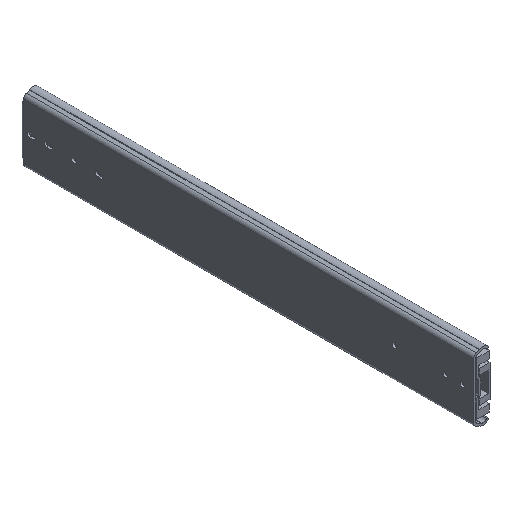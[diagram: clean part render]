
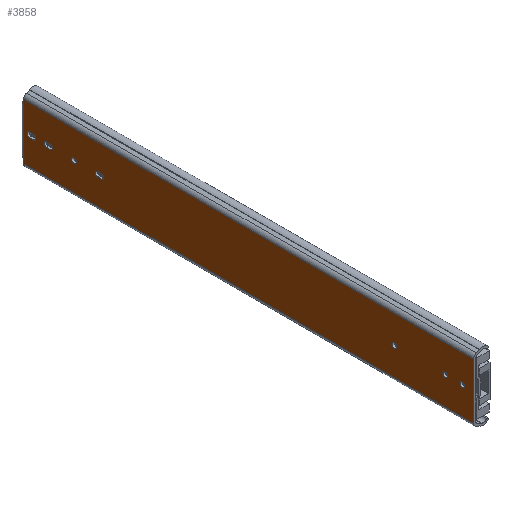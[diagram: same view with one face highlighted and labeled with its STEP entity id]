
A CAD part, isometric view. The second image highlights one B-rep face of the part: STEP entity #3858.
In plain terms, the highlighted planar face has unit normal (-1, 0, 0).
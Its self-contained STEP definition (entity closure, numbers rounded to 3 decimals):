
#343=LINE('',#6565,#726);
#350=LINE('',#6594,#733);
#351=LINE('',#6599,#734);
#366=LINE('',#6646,#749);
#373=LINE('',#6671,#756);
#383=LINE('',#6700,#766);
#386=LINE('',#6722,#769);
#390=LINE('',#6734,#773);
#394=LINE('',#6750,#777);
#401=LINE('',#6769,#784);
#404=LINE('',#6778,#787);
#410=LINE('',#6809,#793);
#416=LINE('',#6825,#799);
#417=LINE('',#6827,#800);
#726=VECTOR('',#5431,1000.);
#733=VECTOR('',#5460,1000.);
#734=VECTOR('',#5465,1000.);
#749=VECTOR('',#5510,1000.);
#756=VECTOR('',#5535,1000.);
#766=VECTOR('',#5567,1000.);
#769=VECTOR('',#5590,1000.);
#773=VECTOR('',#5602,1000.);
#777=VECTOR('',#5620,1000.);
#784=VECTOR('',#5635,1000.);
#787=VECTOR('',#5646,1000.);
#793=VECTOR('',#5672,1000.);
#799=VECTOR('',#5692,1000.);
#800=VECTOR('',#5695,1000.);
#907=PLANE('',#4605);
#1961=ORIENTED_EDGE('',*,*,#2562,.F.);
#1962=ORIENTED_EDGE('',*,*,#2521,.T.);
#1963=ORIENTED_EDGE('',*,*,#2525,.F.);
#1964=ORIENTED_EDGE('',*,*,#2560,.T.);
#1965=ORIENTED_EDGE('',*,*,#2539,.T.);
#1966=ORIENTED_EDGE('',*,*,#2537,.T.);
#1967=ORIENTED_EDGE('',*,*,#2534,.T.);
#1968=ORIENTED_EDGE('',*,*,#2531,.T.);
#1969=ORIENTED_EDGE('',*,*,#2514,.F.);
#1970=ORIENTED_EDGE('',*,*,#2511,.F.);
#1971=ORIENTED_EDGE('',*,*,#2520,.F.);
#1972=ORIENTED_EDGE('',*,*,#2517,.F.);
#1973=ORIENTED_EDGE('',*,*,#2507,.F.);
#1974=ORIENTED_EDGE('',*,*,#2505,.F.);
#1975=ORIENTED_EDGE('',*,*,#2503,.F.);
#1976=ORIENTED_EDGE('',*,*,#2546,.F.);
#1977=ORIENTED_EDGE('',*,*,#2563,.T.);
#1978=ORIENTED_EDGE('',*,*,#2487,.F.);
#1979=ORIENTED_EDGE('',*,*,#2552,.T.);
#1980=ORIENTED_EDGE('',*,*,#2435,.T.);
#1981=ORIENTED_EDGE('',*,*,#2502,.T.);
#1982=ORIENTED_EDGE('',*,*,#2449,.F.);
#1983=ORIENTED_EDGE('',*,*,#2474,.F.);
#1984=ORIENTED_EDGE('',*,*,#2451,.T.);
#2435=EDGE_CURVE('',#2857,#2856,#343,.T.);
#2449=EDGE_CURVE('',#2867,#2866,#350,.T.);
#2451=EDGE_CURVE('',#2870,#2869,#351,.T.);
#2474=EDGE_CURVE('',#2870,#2867,#366,.T.);
#2487=EDGE_CURVE('',#2895,#2896,#373,.T.);
#2502=EDGE_CURVE('',#2856,#2866,#383,.T.);
#2503=EDGE_CURVE('',#2904,#2904,#3089,.T.);
#2505=EDGE_CURVE('',#2906,#2906,#3091,.T.);
#2507=EDGE_CURVE('',#2908,#2908,#3093,.T.);
#2511=EDGE_CURVE('',#2912,#2913,#386,.T.);
#2514=EDGE_CURVE('',#2913,#2915,#3096,.T.);
#2517=EDGE_CURVE('',#2915,#2917,#390,.T.);
#2520=EDGE_CURVE('',#2917,#2912,#3098,.T.);
#2521=EDGE_CURVE('',#2918,#2919,#3099,.T.);
#2525=EDGE_CURVE('',#2922,#2919,#394,.T.);
#2531=EDGE_CURVE('',#2925,#2927,#3102,.T.);
#2534=EDGE_CURVE('',#2929,#2925,#401,.T.);
#2537=EDGE_CURVE('',#2931,#2929,#3104,.T.);
#2539=EDGE_CURVE('',#2927,#2931,#404,.T.);
#2546=EDGE_CURVE('',#2938,#2938,#3107,.T.);
#2552=EDGE_CURVE('',#2895,#2857,#410,.T.);
#2560=EDGE_CURVE('',#2922,#2945,#3110,.T.);
#2562=EDGE_CURVE('',#2918,#2945,#416,.T.);
#2563=EDGE_CURVE('',#2869,#2896,#417,.T.);
#2856=VERTEX_POINT('',#6564);
#2857=VERTEX_POINT('',#6566);
#2866=VERTEX_POINT('',#6591);
#2867=VERTEX_POINT('',#6593);
#2869=VERTEX_POINT('',#6598);
#2870=VERTEX_POINT('',#6600);
#2895=VERTEX_POINT('',#6670);
#2896=VERTEX_POINT('',#6672);
#2904=VERTEX_POINT('',#6703);
#2906=VERTEX_POINT('',#6708);
#2908=VERTEX_POINT('',#6713);
#2912=VERTEX_POINT('',#6721);
#2913=VERTEX_POINT('',#6723);
#2915=VERTEX_POINT('',#6729);
#2917=VERTEX_POINT('',#6735);
#2918=VERTEX_POINT('',#6742);
#2919=VERTEX_POINT('',#6743);
#2922=VERTEX_POINT('',#6751);
#2925=VERTEX_POINT('',#6758);
#2927=VERTEX_POINT('',#6762);
#2929=VERTEX_POINT('',#6767);
#2931=VERTEX_POINT('',#6773);
#2938=VERTEX_POINT('',#6794);
#2945=VERTEX_POINT('',#6822);
#3089=CIRCLE('',#4559,2.6);
#3091=CIRCLE('',#4562,2.6);
#3093=CIRCLE('',#4565,2.6);
#3096=CIRCLE('',#4570,2.6);
#3098=CIRCLE('',#4574,2.6);
#3099=CIRCLE('',#4576,2.6);
#3102=CIRCLE('',#4581,2.619);
#3104=CIRCLE('',#4585,2.619);
#3107=CIRCLE('',#4591,2.6);
#3110=CIRCLE('',#4602,2.6);
#3338=EDGE_LOOP('',(#1961,#1962,#1963,#1964));
#3339=EDGE_LOOP('',(#1965,#1966,#1967,#1968));
#3340=EDGE_LOOP('',(#1969,#1970,#1971,#1972));
#3341=EDGE_LOOP('',(#1973));
#3342=EDGE_LOOP('',(#1974));
#3343=EDGE_LOOP('',(#1975));
#3344=EDGE_LOOP('',(#1976));
#3345=EDGE_LOOP('',(#1977,#1978,#1979,#1980,#1981,#1982,#1983,#1984));
#3579=FACE_BOUND('',#3338,.T.);
#3580=FACE_BOUND('',#3339,.T.);
#3581=FACE_BOUND('',#3340,.T.);
#3582=FACE_BOUND('',#3341,.T.);
#3583=FACE_BOUND('',#3342,.T.);
#3584=FACE_BOUND('',#3343,.T.);
#3585=FACE_BOUND('',#3344,.T.);
#3586=FACE_BOUND('',#3345,.T.);
#3858=ADVANCED_FACE('',(#3579,#3580,#3581,#3582,#3583,#3584,#3585,#3586),
#907,.F.);
#4559=AXIS2_PLACEMENT_3D('',#6702,#5570,#5571);
#4562=AXIS2_PLACEMENT_3D('',#6707,#5576,#5577);
#4565=AXIS2_PLACEMENT_3D('',#6712,#5582,#5583);
#4570=AXIS2_PLACEMENT_3D('',#6728,#5596,#5597);
#4574=AXIS2_PLACEMENT_3D('',#6739,#5608,#5609);
#4576=AXIS2_PLACEMENT_3D('',#6741,#5612,#5613);
#4581=AXIS2_PLACEMENT_3D('',#6763,#5629,#5630);
#4585=AXIS2_PLACEMENT_3D('',#6775,#5641,#5642);
#4591=AXIS2_PLACEMENT_3D('',#6793,#5659,#5660);
#4602=AXIS2_PLACEMENT_3D('',#6821,#5687,#5688);
#4605=AXIS2_PLACEMENT_3D('',#6829,#5697,#5698);
#5431=DIRECTION('',(0.,-1.,0.));
#5460=DIRECTION('',(0.,1.,0.));
#5465=DIRECTION('',(0.,1.,0.));
#5510=DIRECTION('',(0.,0.,-1.));
#5535=DIRECTION('',(0.,-1.,0.));
#5567=DIRECTION('',(0.,0.,-1.));
#5570=DIRECTION('',(-1.,0.,0.));
#5571=DIRECTION('',(0.,1.,0.));
#5576=DIRECTION('',(-1.,0.,0.));
#5577=DIRECTION('',(0.,1.,0.));
#5582=DIRECTION('',(-1.,0.,0.));
#5583=DIRECTION('',(0.,1.,0.));
#5590=DIRECTION('',(0.,-1.,0.));
#5596=DIRECTION('',(-1.,0.,0.));
#5597=DIRECTION('',(0.,1.,0.));
#5602=DIRECTION('',(0.,1.,0.));
#5608=DIRECTION('',(-1.,0.,0.));
#5609=DIRECTION('',(0.,-1.,0.));
#5612=DIRECTION('',(1.,0.,0.));
#5613=DIRECTION('',(0.,0.,-1.));
#5620=DIRECTION('',(0.,1.,0.));
#5629=DIRECTION('',(1.,0.,0.));
#5630=DIRECTION('',(0.,0.,-1.));
#5635=DIRECTION('',(0.,1.,0.));
#5641=DIRECTION('',(1.,0.,0.));
#5642=DIRECTION('',(0.,0.,-1.));
#5646=DIRECTION('',(0.,-1.,0.));
#5659=DIRECTION('',(-1.,0.,0.));
#5660=DIRECTION('',(0.,1.,0.));
#5672=DIRECTION('',(0.,0.,-1.));
#5687=DIRECTION('',(1.,0.,0.));
#5688=DIRECTION('',(0.,0.,-1.));
#5692=DIRECTION('',(0.,-1.,0.));
#5695=DIRECTION('',(0.,0.,-1.));
#5697=DIRECTION('',(1.,0.,0.));
#5698=DIRECTION('',(0.,0.,-1.));
#6564=CARTESIAN_POINT('',(0.,504.,-26.15));
#6565=CARTESIAN_POINT('',(0.,504.5,-26.15));
#6566=CARTESIAN_POINT('',(0.,504.5,-26.15));
#6591=CARTESIAN_POINT('',(0.,504.,-31.142));
#6593=CARTESIAN_POINT('',(0.,0.,-31.142));
#6594=CARTESIAN_POINT('',(0.,0.,-31.142));
#6598=CARTESIAN_POINT('',(0.,504.,31.132));
#6599=CARTESIAN_POINT('',(0.,0.,31.132));
#6600=CARTESIAN_POINT('',(0.,0.,31.132));
#6646=CARTESIAN_POINT('',(0.,0.,31.132));
#6670=CARTESIAN_POINT('',(0.,504.5,26.15));
#6671=CARTESIAN_POINT('',(0.,504.5,26.15));
#6672=CARTESIAN_POINT('',(0.,504.,26.15));
#6700=CARTESIAN_POINT('',(0.,504.,31.132));
#6702=CARTESIAN_POINT('',(0.,31.75,-0.006));
#6703=CARTESIAN_POINT('',(0.,34.35,-0.006));
#6707=CARTESIAN_POINT('',(0.,88.9,-0.006));
#6708=CARTESIAN_POINT('',(0.,91.5,-0.006));
#6712=CARTESIAN_POINT('',(0.,447.7,-0.006));
#6713=CARTESIAN_POINT('',(0.,450.3,-0.006));
#6721=CARTESIAN_POINT('',(0.,421.4,-2.605));
#6722=CARTESIAN_POINT('',(0.,421.4,-2.605));
#6723=CARTESIAN_POINT('',(0.,416.8,-2.605));
#6728=CARTESIAN_POINT('',(0.,416.8,-0.005));
#6729=CARTESIAN_POINT('',(0.,416.8,2.595));
#6734=CARTESIAN_POINT('',(0.,421.4,2.595));
#6735=CARTESIAN_POINT('',(0.,421.4,2.595));
#6739=CARTESIAN_POINT('',(0.,421.4,-0.005));
#6741=CARTESIAN_POINT('',(0.,497.6,-0.006));
#6742=CARTESIAN_POINT('',(0.,497.6,-2.606));
#6743=CARTESIAN_POINT('',(0.,497.6,2.594));
#6750=CARTESIAN_POINT('',(0.,0.,2.594));
#6751=CARTESIAN_POINT('',(0.,493.,2.594));
#6758=CARTESIAN_POINT('',(0.,478.899,-2.606));
#6762=CARTESIAN_POINT('',(0.,478.899,2.594));
#6763=CARTESIAN_POINT('',(0.,478.581,-0.006));
#6767=CARTESIAN_POINT('',(0.,473.701,-2.606));
#6769=CARTESIAN_POINT('',(0.,0.,-2.606));
#6773=CARTESIAN_POINT('',(0.,473.701,2.594));
#6775=CARTESIAN_POINT('',(0.,474.019,-0.006));
#6778=CARTESIAN_POINT('',(0.,0.,2.594));
#6793=CARTESIAN_POINT('',(0.,12.7,-0.006));
#6794=CARTESIAN_POINT('',(0.,15.3,-0.006));
#6809=CARTESIAN_POINT('',(0.,504.5,26.15));
#6821=CARTESIAN_POINT('',(0.,493.,-0.006));
#6822=CARTESIAN_POINT('',(0.,493.,-2.606));
#6825=CARTESIAN_POINT('',(0.,0.,-2.606));
#6827=CARTESIAN_POINT('',(0.,504.,31.132));
#6829=CARTESIAN_POINT('',(0.,0.,31.132));
